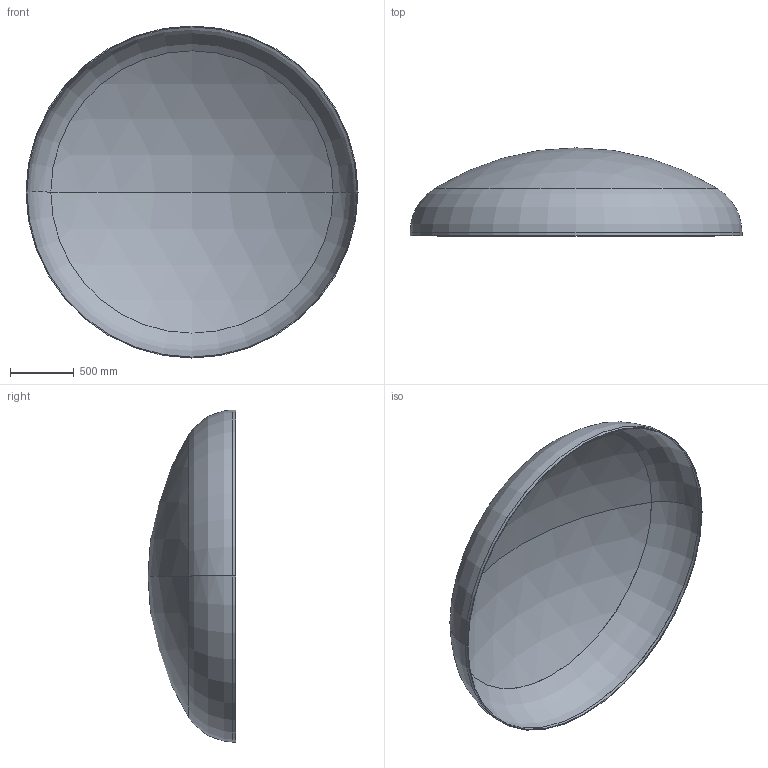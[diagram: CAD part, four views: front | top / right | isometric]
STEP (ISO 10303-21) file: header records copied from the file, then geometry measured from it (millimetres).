
FILE_DESCRIPTION (( 'STEP AP203' ), '1' );
FILE_NAME ('DIN 28013 Korbbogenform_-_Boden DIN 28013 - 2600 x 25 - I - s=7.step', '2016-07-01T15:51:07', ( '' ), ( '' ), 'SwSTEP 2.0', 'SolidWorks 2013', '' );
FILE_SCHEMA (( 'CONFIG_CONTROL_DESIGN' ));
Length unit declared in the file: millimetre
Products named in the file (1): DIN 28013 Korbbogenform_-_Boden DIN 28013 - 2600 x 25 - I - s=7
Bounding box: 2600 x 688.99 x 2600 mm (x, y, z)
Volume: 52709701.1 mm3; surface area: 15117034.1 mm2
Topology: 1 solids, 1 shells, 13 faces, 24 edges, 14 vertices
Faces by surface type: torus 4, cylinder 4, sphere 4, plane 1
Entity records: 407 total; most frequent: DIRECTION 72, CARTESIAN_POINT 52, ORIENTED_EDGE 48, AXIS2_PLACEMENT_3D 34, EDGE_CURVE 24, CIRCLE 20, EDGE_LOOP 14, VERTEX_POINT 14
